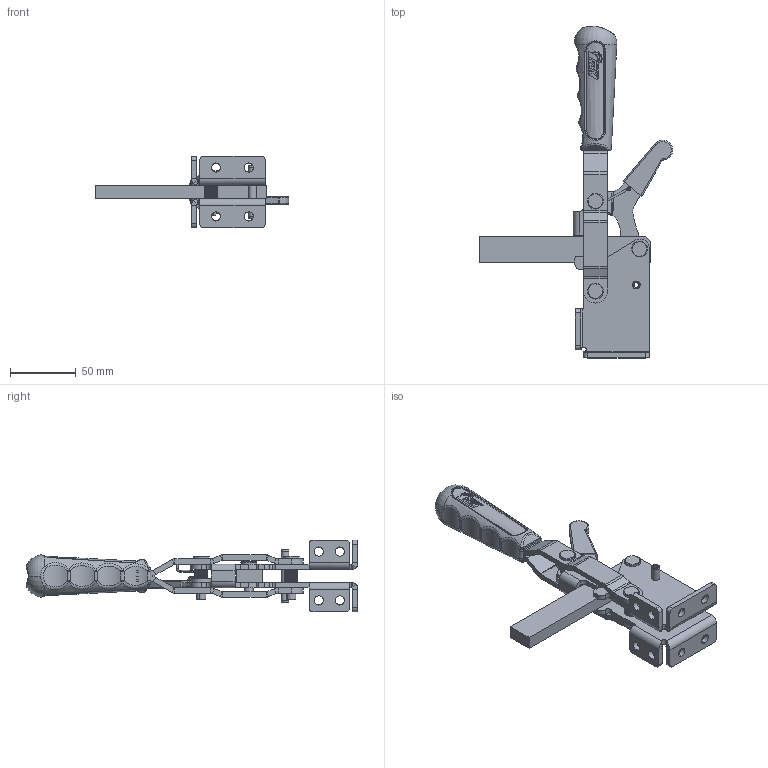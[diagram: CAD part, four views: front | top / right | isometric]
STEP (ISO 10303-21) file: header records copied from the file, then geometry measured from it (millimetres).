
FILE_DESCRIPTION (( 'STEP AP214' ), '1' );
FILE_NAME ('203_YL-K.STEP', '2024-09-09T16:30:00', ( '' ), ( '' ), 'SwSTEP 2.0', 'SolidWorks 2023', '' );
FILE_SCHEMA (( 'AUTOMOTIVE_DESIGN' ));
Length unit declared in the file: millimetre
Products named in the file (15): FZK_203_B_02_00; FZK_203_YL_02_00; TTMK_03_00; FZK_203_B_03_00; FZK_203_YL_01_00; FZK_203_B-K_01_00; FZK_203_B_03A_00; 203_YL-K; DALDIRMA SAP; YAY 203_B-K; FZK_203_B_06_00; FZK_203_B_07_00; FZK_203_B_05_00; Ø6x40 YARIKLI PİM; FZK_203_B_04_00
Assembly tree (18 placements, depth 3):
  203_YL-K
    FZK_203_YL_02_00
    FZK_203_B_06_00  x2
    FZK_203_B_05_00
    FZK_203_B_02_00
    FZK_203_B_03_00
      FZK_203_B_03A_00  x2
    TTMK_03_00
    FZK_203_B_07_00  x2
    FZK_203_YL_01_00
    DALDIRMA SAP
    FZK_203_B_04_00  x2
    FZK_203_B-K_01_00
    Ø6x40 YARIKLI PİM
    YAY 203_B-K
Bounding box: 146.59 x 251.81 x 54.01 mm (x, y, z)
Volume: 161559.7 mm3; surface area: 83024.9 mm2
Topology: 17 solids, 17 shells, 1335 faces, 3601 edges, 2302 vertices
Faces by surface type: cylinder 824, bspline 226, plane 208, cone 43, sphere 20, torus 14
Entity records: 47880 total; most frequent: CARTESIAN_POINT 27013, ORIENTED_EDGE 4954, DIRECTION 3141, EDGE_CURVE 2477, VERTEX_POINT 1584, B_SPLINE_CURVE_WITH_KNOTS 1240, AXIS2_PLACEMENT_3D 1191, EDGE_LOOP 1003
